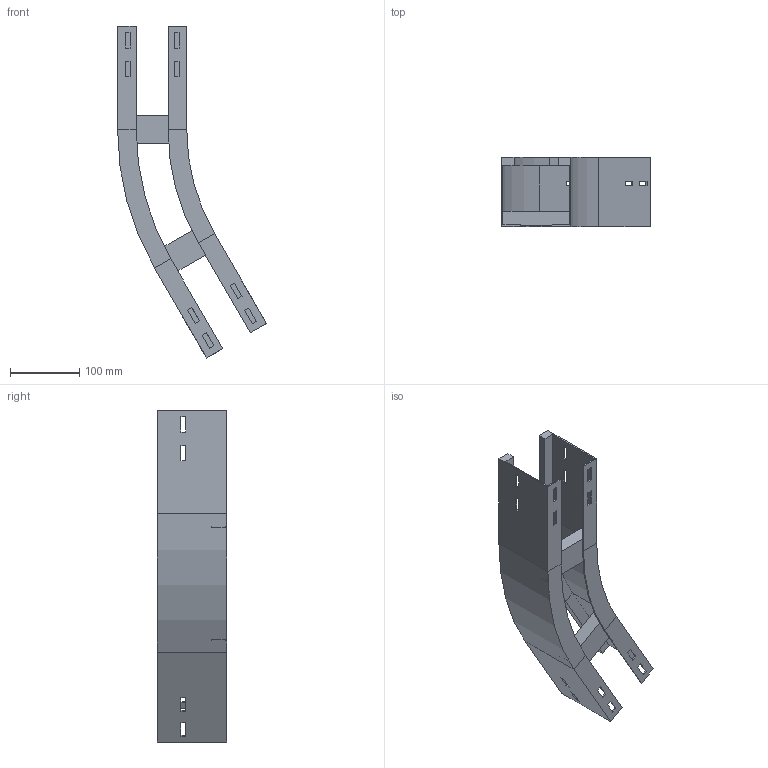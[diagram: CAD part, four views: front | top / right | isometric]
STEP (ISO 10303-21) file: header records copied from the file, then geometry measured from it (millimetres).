
FILE_DESCRIPTION (( 'STEP AP214' ), '1' );
FILE_NAME ('A2_12B3D100.step', '2025-02-21T15:07:02', ( '' ), ( '' ), 'SwSTEP 2.0', 'SolidWorks 2023', '' );
FILE_SCHEMA (( 'AUTOMOTIVE_DESIGN' ));
Length unit declared in the file: millimetre
Products named in the file (4): TRAVERSINO_100; A2_LONGH.INTERNO 30°_H100_R300; A2_LONGH.ESTERNO 30°_H100_R300+100; A2_12B3D100
Assembly tree (4 placements, depth 2):
  A2_12B3D100
    A2_LONGH.INTERNO 30°_H100_R300
    A2_LONGH.ESTERNO 30°_H100_R300+100
    TRAVERSINO_100  x2
Bounding box: 215.19 x 100 x 479.9 mm (x, y, z)
Volume: 577793.5 mm3; surface area: 301592.5 mm2
Topology: 4 solids, 4 shells, 128 faces, 328 edges, 208 vertices
Faces by surface type: plane 120, cylinder 8
Entity records: 3813 total; most frequent: CARTESIAN_POINT 645, ORIENTED_EDGE 632, DIRECTION 590, EDGE_CURVE 316, VECTOR 300, LINE 300, VERTEX_POINT 200, EDGE_LOOP 154
